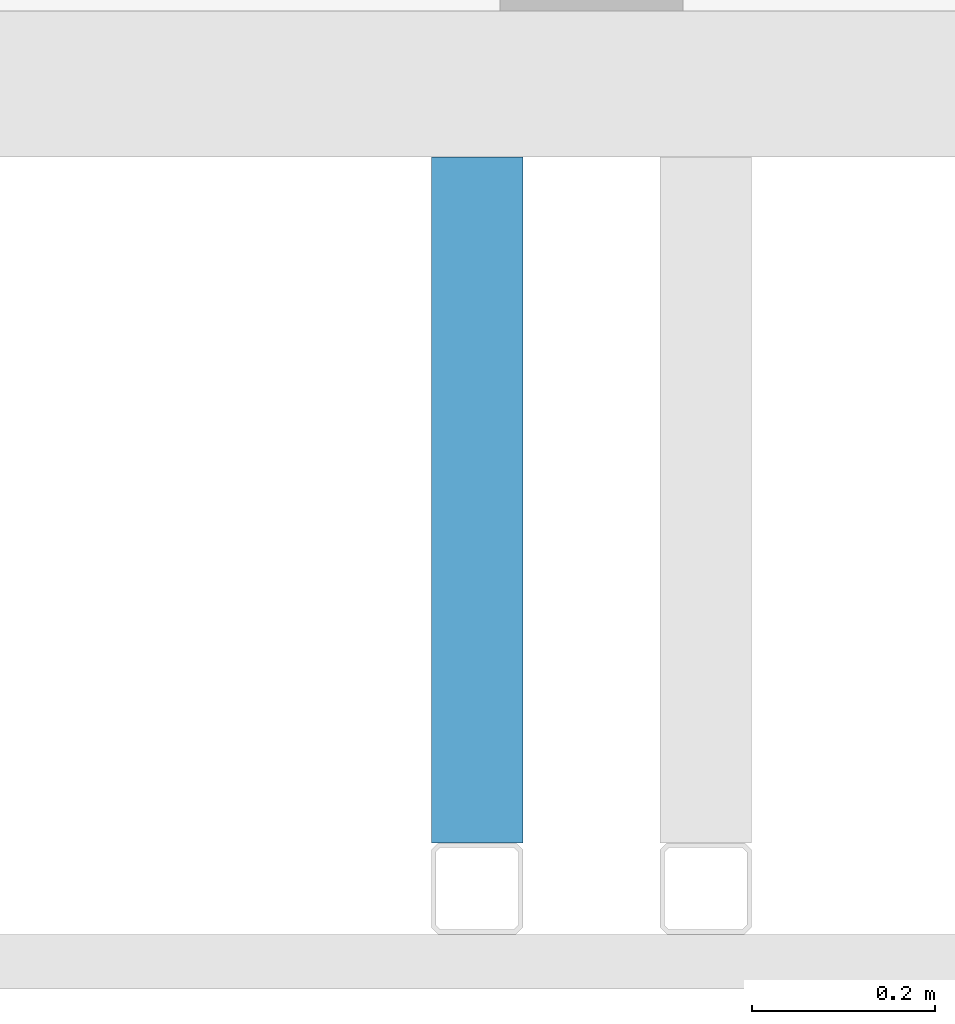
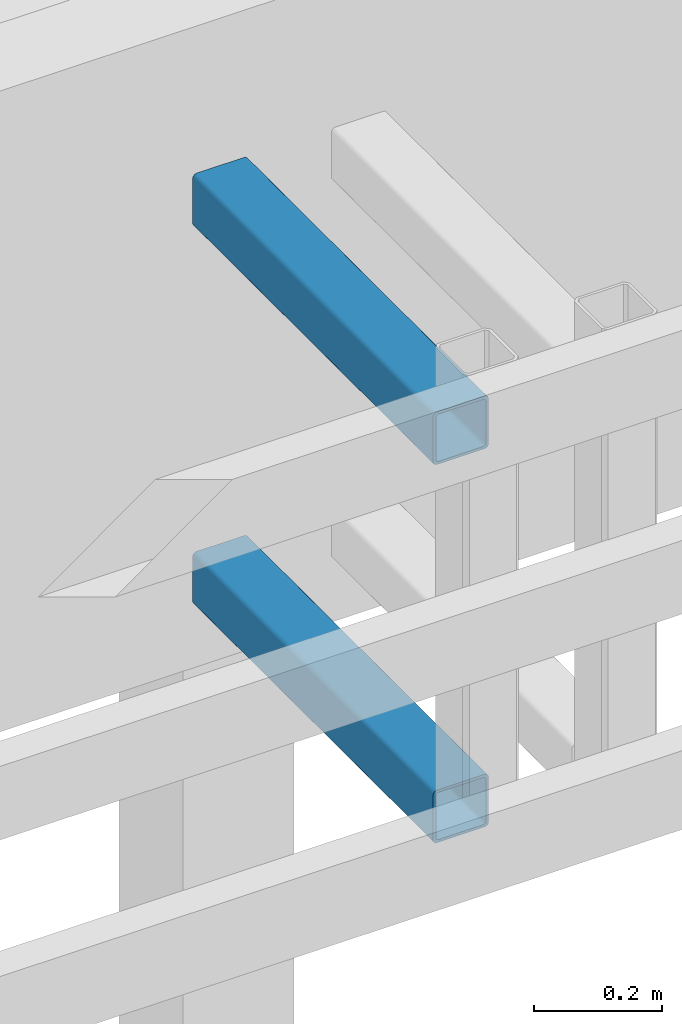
# One storey, part 7 of 44: 2 members.
"""IFC4 building model written with IfcOpenShell, lengths in metres."""

from ifc_helpers import new_model, entity, si_unit, converted_unit, derived_unit, frame, origin, place, context, subcontext, project, spatial, faceted_brep, material, element, save


model = new_model("IFC4")

# Units and contexts
model_context = context("Model", 3, precision=1e-05, world=origin())
plan_context = context("Plan", 2, precision=1e-05, world=origin())
body_context = subcontext(model_context, "Body", "Model", "MODEL_VIEW")
ifc_project = project(units=[si_unit("LENGTHUNIT", "METRE"), si_unit("AREAUNIT", "SQUARE_METRE"), si_unit("VOLUMEUNIT", "CUBIC_METRE"), si_unit("MASSUNIT", "GRAM", prefix="KILO"), converted_unit("PLANEANGLEUNIT", "DEGREE", entity("IfcPlaneAngleMeasure", 0.0174532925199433), si_unit("PLANEANGLEUNIT", "RADIAN"), dimensions=[0, 0, 0, 0, 0, 0, 0]), derived_unit("THERMALTRANSMITTANCEUNIT", [(si_unit("POWERUNIT", "WATT"), 1), (si_unit("THERMODYNAMICTEMPERATUREUNIT", "KELVIN"), -1), (si_unit("LENGTHUNIT", "METRE"), -2)]), derived_unit("VOLUMETRICFLOWRATEUNIT", [(si_unit("LENGTHUNIT", "METRE"), 3), (converted_unit("TIMEUNIT", "hour", entity("IfcTimeMeasure", 3600.0), si_unit("TIMEUNIT", "SECOND"), dimensions=[0, 0, 1, 0, 0, 0, 0]), -1), (si_unit("LENGTHUNIT", "METRE"), -1)])], contexts=[model_context, plan_context])

# Site, building, storey
site_placement = place(None, origin())
site = spatial("IfcSite", under=ifc_project, at=site_placement, Name="Site", CompositionType="ELEMENT")
building_placement = place(site_placement, origin())
building = spatial("IfcBuilding", under=site, at=building_placement, Name="Admin", CompositionType="ELEMENT")
storey_placement = place(building_placement, frame((0.0, 0.0, 3.25)))
storey = spatial("IfcBuildingStorey", under=building, at=storey_placement, Name="01-Etage1", CompositionType="ELEMENT", Elevation=3.25)

# Members
ifc_material_1 = material(Name="S235")
member_1_placement = place(storey_placement, frame((29.4948010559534, 11.1194493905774, 2.82)))
element("IfcMember", 1, at=member_1_placement, inside=storey, material=ifc_material_1, Name="Bandeau R+1", context=body_context, shape_type="Brep", body=[
    faceted_brep([(0.095, 0.0, 0.09), (0.095, 0.0, 0.01), (0.0950000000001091, 0.749999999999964, 0.01), (0.0950000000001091, 0.749999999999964, 0.09), (0.0949240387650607, 0.0, 0.0908682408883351), (0.0949240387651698, 0.749999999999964, 0.0908682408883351), (0.0946984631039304, 0.0, 0.0917101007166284), (0.0946984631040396, 0.749999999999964, 0.0917101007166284), (0.0943301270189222, 0.0, 0.0925), (0.0943301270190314, 0.749999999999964, 0.0925), (0.0938302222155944, 0.0, 0.0932139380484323), (0.0938302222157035, 0.749999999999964, 0.0932139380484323), (0.0932139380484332, 1.81898940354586e-15, 0.0938302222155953), (0.0932139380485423, 0.749999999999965, 0.0938302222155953), (0.0925, 1.81898940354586e-15, 0.0943301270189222), (0.0925000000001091, 0.749999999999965, 0.0943301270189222), (0.0917101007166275, 1.81898940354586e-15, 0.0946984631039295), (0.0917101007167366, 0.749999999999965, 0.0946984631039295), (0.090868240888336, 1.81898940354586e-15, 0.0949240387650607), (0.0908682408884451, 0.749999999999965, 0.0949240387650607), (0.09, 1.81898940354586e-15, 0.095), (0.0900000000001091, 0.749999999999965, 0.095), (0.01, 1.2732925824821e-14, 0.095), (0.0100000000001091, 0.749999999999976, 0.095), (0.009131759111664, 1.2732925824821e-14, 0.0949240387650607), (0.00913175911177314, 0.749999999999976, 0.0949240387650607), (0.00828989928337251, 1.2732925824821e-14, 0.0946984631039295), (0.00828989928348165, 0.749999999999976, 0.0946984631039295), (0.0075, 1.2732925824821e-14, 0.0943301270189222), (0.00750000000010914, 0.749999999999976, 0.0943301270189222), (0.00678606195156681, 1.2732925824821e-14, 0.0938302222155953), (0.00678606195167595, 0.749999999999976, 0.0938302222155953), (0.0061697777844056, 1.45519152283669e-14, 0.0932139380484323), (0.00616977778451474, 0.749999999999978, 0.0932139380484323), (0.00566987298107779, 1.45519152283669e-14, 0.0925), (0.00566987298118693, 0.749999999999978, 0.0925), (0.00530153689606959, 1.45519152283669e-14, 0.0917101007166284), (0.00530153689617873, 0.749999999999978, 0.0917101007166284), (0.00507596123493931, 1.45519152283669e-14, 0.0908682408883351), (0.00507596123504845, 0.749999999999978, 0.0908682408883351), (0.005, 1.45519152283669e-14, 0.09), (0.00500000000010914, 0.749999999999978, 0.09), (0.005, 1.45519152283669e-14, 0.01), (0.00500000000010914, 0.749999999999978, 0.01), (0.00507596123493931, 1.45519152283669e-14, 0.00913175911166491), (0.00507596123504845, 0.749999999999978, 0.00913175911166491), (0.00530153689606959, 1.45519152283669e-14, 0.0082898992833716), (0.00530153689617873, 0.749999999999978, 0.0082898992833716), (0.00566987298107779, 1.45519152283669e-14, 0.0075), (0.00566987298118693, 0.749999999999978, 0.0075), (0.0061697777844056, 1.45519152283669e-14, 0.00678606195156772), (0.00616977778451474, 0.749999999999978, 0.00678606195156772), (0.00678606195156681, 1.2732925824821e-14, 0.00616977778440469), (0.00678606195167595, 0.749999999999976, 0.00616977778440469), (0.0075, 1.2732925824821e-14, 0.00566987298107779), (0.00750000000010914, 0.749999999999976, 0.00566987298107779), (0.00828989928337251, 1.2732925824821e-14, 0.0053015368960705), (0.00828989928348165, 0.749999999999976, 0.0053015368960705), (0.009131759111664, 1.2732925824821e-14, 0.00507596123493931), (0.00913175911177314, 0.749999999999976, 0.00507596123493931), (0.01, 1.2732925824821e-14, 0.005), (0.0100000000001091, 0.749999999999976, 0.005), (0.09, 1.81898940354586e-15, 0.005), (0.0900000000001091, 0.749999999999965, 0.005), (0.090868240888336, 1.81898940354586e-15, 0.00507596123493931), (0.0908682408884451, 0.749999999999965, 0.00507596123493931), (0.0917101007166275, 1.81898940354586e-15, 0.0053015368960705), (0.0917101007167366, 0.749999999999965, 0.0053015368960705), (0.0925, 1.81898940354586e-15, 0.00566987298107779), (0.0925000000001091, 0.749999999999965, 0.00566987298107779), (0.0932139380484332, 1.81898940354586e-15, 0.00616977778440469), (0.0932139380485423, 0.749999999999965, 0.00616977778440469), (0.0938302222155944, 0.0, 0.00678606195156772), (0.0938302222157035, 0.749999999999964, 0.00678606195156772), (0.0943301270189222, 0.0, 0.0075), (0.0943301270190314, 0.749999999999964, 0.0075), (0.0946984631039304, 0.0, 0.0082898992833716), (0.0946984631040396, 0.749999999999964, 0.0082898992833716), (0.0949240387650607, 0.0, 0.00913175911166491), (0.0949240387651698, 0.749999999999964, 0.00913175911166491), (0.0075, 1.2732925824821e-14, 0.1), (0.00619763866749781, 1.45519152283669e-14, 0.0998860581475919), (0.00619763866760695, 0.749999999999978, 0.0998860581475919), (0.00750000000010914, 0.749999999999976, 0.1), (0.0925, 1.81898940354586e-15, 0.1), (0.0925000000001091, 0.749999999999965, 0.1), (0.0938023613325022, 0.0, 0.0998860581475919), (0.0938023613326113, 0.749999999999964, 0.0998860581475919), (0.0950651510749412, 0.0, 0.0995476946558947), (0.0950651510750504, 0.749999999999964, 0.0995476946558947), (0.09625, 0.0, 0.0989951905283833), (0.0962500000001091, 0.749999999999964, 0.0989951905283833), (0.097320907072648, 0.0, 0.0982453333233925), (0.0973209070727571, 0.749999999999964, 0.0982453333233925), (0.0982453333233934, 0.0, 0.0973209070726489), (0.0982453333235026, 0.749999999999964, 0.0973209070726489), (0.0989951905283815, 0.0, 0.09625), (0.0989951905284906, 0.749999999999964, 0.09625), (0.0995476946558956, 0.0, 0.0950651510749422), (0.0995476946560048, 0.749999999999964, 0.0950651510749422), (0.0998860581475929, 0.0, 0.0938023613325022), (0.099886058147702, 0.749999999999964, 0.0938023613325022), (0.1, 0.0, 0.0925), (0.100000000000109, 0.749999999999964, 0.0925), (0.0998860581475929, 0.0, 0.00619763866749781), (0.1, 0.0, 0.0075), (0.100000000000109, 0.749999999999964, 0.0075), (0.099886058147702, 0.749999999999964, 0.00619763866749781), (0.0995476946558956, 0.0, 0.00493484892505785), (0.0995476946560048, 0.749999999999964, 0.00493484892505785), (0.0989951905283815, 0.0, 0.00375), (0.0989951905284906, 0.749999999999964, 0.00375), (0.0982453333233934, 0.0, 0.00267909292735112), (0.0982453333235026, 0.749999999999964, 0.00267909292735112), (0.097320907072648, 0.0, 0.00175466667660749), (0.0973209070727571, 0.749999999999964, 0.00175466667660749), (0.09625, 0.0, 0.00100480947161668), (0.0962500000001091, 0.749999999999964, 0.00100480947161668), (0.0950651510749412, 0.0, 0.000452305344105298), (0.0950651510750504, 0.749999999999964, 0.000452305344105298), (0.0938023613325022, 0.0, 0.000113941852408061), (0.0938023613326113, 0.749999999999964, 0.000113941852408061), (0.0925, 1.81898940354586e-15, 0.0), (0.0925000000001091, 0.749999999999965, 0.0), (0.0075, 1.2732925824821e-14, 0.0), (0.00750000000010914, 0.749999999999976, 0.0), (0.00619763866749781, 1.45519152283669e-14, 0.000113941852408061), (0.00619763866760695, 0.749999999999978, 0.000113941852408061), (0.00493484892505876, 1.45519152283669e-14, 0.000452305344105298), (0.0049348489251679, 0.749999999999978, 0.000452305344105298), (0.00375, 1.45519152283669e-14, 0.00100480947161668), (0.00375000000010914, 0.749999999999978, 0.00100480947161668), (0.00267909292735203, 1.45519152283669e-14, 0.00175466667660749), (0.00267909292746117, 0.749999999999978, 0.00175466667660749), (0.00175466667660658, 1.45519152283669e-14, 0.00267909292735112), (0.00175466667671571, 0.749999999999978, 0.00267909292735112), (0.0010048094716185, 1.45519152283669e-14, 0.00375), (0.00100480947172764, 0.749999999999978, 0.00375), (0.000452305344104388, 1.45519152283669e-14, 0.00493484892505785), (0.000452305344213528, 0.749999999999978, 0.00493484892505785), (0.000113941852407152, 1.45519152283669e-14, 0.00619763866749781), (0.000113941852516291, 0.749999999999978, 0.00619763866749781), (0.0, 0.0, 0.0075), (1.09139364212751e-13, 0.749999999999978, 0.0075), (0.000113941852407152, 1.45519152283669e-14, 0.0938023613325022), (0.0, 0.0, 0.0925), (1.09139364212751e-13, 0.749999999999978, 0.0925), (0.000113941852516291, 0.749999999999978, 0.0938023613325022), (0.000452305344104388, 1.45519152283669e-14, 0.0950651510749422), (0.000452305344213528, 0.749999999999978, 0.0950651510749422), (0.0010048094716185, 1.45519152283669e-14, 0.09625), (0.00100480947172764, 0.749999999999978, 0.09625), (0.00175466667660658, 1.45519152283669e-14, 0.0973209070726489), (0.00175466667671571, 0.749999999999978, 0.0973209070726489), (0.00267909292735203, 1.45519152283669e-14, 0.0982453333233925), (0.00267909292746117, 0.749999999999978, 0.0982453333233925), (0.00375, 1.45519152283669e-14, 0.0989951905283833), (0.00375000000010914, 0.749999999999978, 0.0989951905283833), (0.00493484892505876, 1.45519152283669e-14, 0.0995476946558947), (0.0049348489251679, 0.749999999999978, 0.0995476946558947)], [[[0, 1, 2, 3]], [[4, 0, 3, 5]], [[6, 4, 5, 7]], [[8, 6, 7, 9]], [[10, 8, 9, 11]], [[12, 10, 11, 13]], [[14, 12, 13, 15]], [[16, 14, 15, 17]], [[18, 16, 17, 19]], [[20, 18, 19, 21]], [[22, 20, 21, 23]], [[24, 22, 23, 25]], [[26, 24, 25, 27]], [[28, 26, 27, 29]], [[30, 28, 29, 31]], [[32, 30, 31, 33]], [[34, 32, 33, 35]], [[36, 34, 35, 37]], [[38, 36, 37, 39]], [[40, 38, 39, 41]], [[42, 40, 41, 43]], [[44, 42, 43, 45]], [[46, 44, 45, 47]], [[48, 46, 47, 49]], [[50, 48, 49, 51]], [[52, 50, 51, 53]], [[54, 52, 53, 55]], [[56, 54, 55, 57]], [[58, 56, 57, 59]], [[60, 58, 59, 61]], [[62, 60, 61, 63]], [[64, 62, 63, 65]], [[66, 64, 65, 67]], [[68, 66, 67, 69]], [[70, 68, 69, 71]], [[72, 70, 71, 73]], [[74, 72, 73, 75]], [[76, 74, 75, 77]], [[78, 76, 77, 79]], [[1, 78, 79, 2]], [[80, 81, 82, 83]], [[84, 80, 83, 85]], [[86, 84, 85, 87]], [[88, 86, 87, 89]], [[90, 88, 89, 91]], [[92, 90, 91, 93]], [[94, 92, 93, 95]], [[96, 94, 95, 97]], [[98, 96, 97, 99]], [[100, 98, 99, 101]], [[102, 100, 101, 103]], [[104, 105, 106, 107]], [[108, 104, 107, 109]], [[110, 108, 109, 111]], [[112, 110, 111, 113]], [[114, 112, 113, 115]], [[116, 114, 115, 117]], [[118, 116, 117, 119]], [[120, 118, 119, 121]], [[122, 120, 121, 123]], [[124, 122, 123, 125]], [[126, 124, 125, 127]], [[128, 126, 127, 129]], [[130, 128, 129, 131]], [[132, 130, 131, 133]], [[134, 132, 133, 135]], [[136, 134, 135, 137]], [[138, 136, 137, 139]], [[140, 138, 139, 141]], [[142, 140, 141, 143]], [[144, 145, 146, 147]], [[148, 144, 147, 149]], [[150, 148, 149, 151]], [[152, 150, 151, 153]], [[154, 152, 153, 155]], [[156, 154, 155, 157]], [[158, 156, 157, 159]], [[81, 158, 159, 82]], [[146, 143, 141, 139, 137, 135, 133, 131, 129, 127, 125, 123, 121, 119, 117, 115, 113, 111, 109, 107, 106, 103, 101, 99, 97, 95, 93, 91, 89, 87, 85, 83, 82, 159, 157, 155, 153, 151, 149, 147], [2, 79, 77, 75, 73, 71, 69, 67, 65, 63, 61, 59, 57, 55, 53, 51, 49, 47, 45, 43, 41, 39, 37, 35, 33, 31, 29, 27, 25, 23, 21, 19, 17, 15, 13, 11, 9, 7, 5, 3]], [[103, 106, 105, 102]], [[102, 105, 104, 108, 110, 112, 114, 116, 118, 120, 122, 124, 126, 128, 130, 132, 134, 136, 138, 140, 142, 145, 144, 148, 150, 152, 154, 156, 158, 81, 80, 84, 86, 88, 90, 92, 94, 96, 98, 100], [1, 0, 4, 6, 8, 10, 12, 14, 16, 18, 20, 22, 24, 26, 28, 30, 32, 34, 36, 38, 40, 42, 44, 46, 48, 50, 52, 54, 56, 58, 60, 62, 64, 66, 68, 70, 72, 74, 76, 78]], [[145, 142, 143, 146]]], orient=[[False], [False], [False], [False], [False], [False], [False], [False], [False], [False], [False], [False], [False], [False], [False], [False], [False], [False], [False], [False], [False], [False], [False], [False], [False], [False], [False], [False], [False], [False], [False], [False], [False], [False], [False], [False], [False], [False], [False], [False], [False], [False], [False], [False], [False], [False], [False], [False], [False], [False], [False], [False], [False], [False], [False], [False], [False], [False], [False], [False], [False], [False], [False], [False], [False], [False], [False], [False], [False], [False], [False], [False], [False], [False], [False], [False], [False], [False], [False, False], [False], [False, False], [False]]),
])
ifc_material_2 = material(Name="S235")
member_2_placement = place(storey_placement, frame((29.4948010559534, 11.1194493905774, 3.54)))
element("IfcMember", 2, at=member_2_placement, inside=storey, material=ifc_material_2, Name="Bandeau R+1", context=body_context, shape_type="Brep", body=[
    faceted_brep([(0.095, 0.0, 0.09), (0.095, 0.0, 0.01), (0.0950000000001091, 0.749999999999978, 0.01), (0.0950000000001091, 0.749999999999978, 0.09), (0.0949240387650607, 0.0, 0.0908682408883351), (0.0949240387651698, 0.749999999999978, 0.0908682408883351), (0.0946984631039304, 0.0, 0.0917101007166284), (0.0946984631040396, 0.749999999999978, 0.0917101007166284), (0.0943301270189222, 0.0, 0.0925), (0.0943301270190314, 0.749999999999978, 0.0925), (0.0938302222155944, 0.0, 0.0932139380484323), (0.0938302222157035, 0.749999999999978, 0.0932139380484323), (0.0932139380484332, 1.81898940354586e-15, 0.0938302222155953), (0.0932139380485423, 0.74999999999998, 0.0938302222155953), (0.0925, 1.81898940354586e-15, 0.0943301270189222), (0.0925000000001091, 0.74999999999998, 0.0943301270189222), (0.0917101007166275, 1.81898940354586e-15, 0.0946984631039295), (0.0917101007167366, 0.74999999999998, 0.0946984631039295), (0.090868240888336, 1.81898940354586e-15, 0.0949240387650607), (0.0908682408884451, 0.74999999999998, 0.0949240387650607), (0.09, 1.81898940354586e-15, 0.095), (0.0900000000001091, 0.74999999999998, 0.095), (0.01, 1.2732925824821e-14, 0.095), (0.0100000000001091, 0.749999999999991, 0.095), (0.009131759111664, 1.2732925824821e-14, 0.0949240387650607), (0.00913175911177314, 0.749999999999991, 0.0949240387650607), (0.00828989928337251, 1.2732925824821e-14, 0.0946984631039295), (0.00828989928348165, 0.749999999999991, 0.0946984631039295), (0.0075, 1.2732925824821e-14, 0.0943301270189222), (0.00750000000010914, 0.749999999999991, 0.0943301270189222), (0.00678606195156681, 1.2732925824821e-14, 0.0938302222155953), (0.00678606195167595, 0.749999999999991, 0.0938302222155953), (0.0061697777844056, 1.45519152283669e-14, 0.0932139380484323), (0.00616977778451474, 0.749999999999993, 0.0932139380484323), (0.00566987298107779, 1.45519152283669e-14, 0.0925), (0.00566987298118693, 0.749999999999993, 0.0925), (0.00530153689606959, 1.45519152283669e-14, 0.0917101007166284), (0.00530153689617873, 0.749999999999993, 0.0917101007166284), (0.00507596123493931, 1.45519152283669e-14, 0.0908682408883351), (0.00507596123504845, 0.749999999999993, 0.0908682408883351), (0.005, 1.45519152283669e-14, 0.09), (0.00500000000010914, 0.749999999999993, 0.09), (0.005, 1.45519152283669e-14, 0.01), (0.00500000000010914, 0.749999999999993, 0.01), (0.00507596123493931, 1.45519152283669e-14, 0.00913175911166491), (0.00507596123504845, 0.749999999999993, 0.00913175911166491), (0.00530153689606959, 1.45519152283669e-14, 0.0082898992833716), (0.00530153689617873, 0.749999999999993, 0.0082898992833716), (0.00566987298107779, 1.45519152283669e-14, 0.0075), (0.00566987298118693, 0.749999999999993, 0.0075), (0.0061697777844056, 1.45519152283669e-14, 0.00678606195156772), (0.00616977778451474, 0.749999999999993, 0.00678606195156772), (0.00678606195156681, 1.2732925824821e-14, 0.00616977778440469), (0.00678606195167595, 0.749999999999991, 0.00616977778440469), (0.0075, 1.2732925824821e-14, 0.00566987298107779), (0.00750000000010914, 0.749999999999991, 0.00566987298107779), (0.00828989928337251, 1.2732925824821e-14, 0.0053015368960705), (0.00828989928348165, 0.749999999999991, 0.0053015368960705), (0.009131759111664, 1.2732925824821e-14, 0.00507596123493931), (0.00913175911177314, 0.749999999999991, 0.00507596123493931), (0.01, 1.2732925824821e-14, 0.005), (0.0100000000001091, 0.749999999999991, 0.005), (0.09, 1.81898940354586e-15, 0.005), (0.0900000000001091, 0.74999999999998, 0.005), (0.090868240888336, 1.81898940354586e-15, 0.00507596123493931), (0.0908682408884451, 0.74999999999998, 0.00507596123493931), (0.0917101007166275, 1.81898940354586e-15, 0.0053015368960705), (0.0917101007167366, 0.74999999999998, 0.0053015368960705), (0.0925, 1.81898940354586e-15, 0.00566987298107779), (0.0925000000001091, 0.74999999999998, 0.00566987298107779), (0.0932139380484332, 1.81898940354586e-15, 0.00616977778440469), (0.0932139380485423, 0.74999999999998, 0.00616977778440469), (0.0938302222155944, 0.0, 0.00678606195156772), (0.0938302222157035, 0.749999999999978, 0.00678606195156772), (0.0943301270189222, 0.0, 0.0075), (0.0943301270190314, 0.749999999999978, 0.0075), (0.0946984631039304, 0.0, 0.0082898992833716), (0.0946984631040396, 0.749999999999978, 0.0082898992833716), (0.0949240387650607, 0.0, 0.00913175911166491), (0.0949240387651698, 0.749999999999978, 0.00913175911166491), (0.0075, 1.2732925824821e-14, 0.1), (0.00619763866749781, 1.45519152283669e-14, 0.0998860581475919), (0.00619763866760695, 0.749999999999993, 0.0998860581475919), (0.00750000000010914, 0.749999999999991, 0.1), (0.0925, 1.81898940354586e-15, 0.1), (0.0925000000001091, 0.74999999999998, 0.1), (0.0938023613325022, 0.0, 0.0998860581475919), (0.0938023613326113, 0.749999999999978, 0.0998860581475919), (0.0950651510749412, 0.0, 0.0995476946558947), (0.0950651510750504, 0.749999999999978, 0.0995476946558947), (0.09625, 0.0, 0.0989951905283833), (0.0962500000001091, 0.749999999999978, 0.0989951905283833), (0.097320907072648, 0.0, 0.0982453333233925), (0.0973209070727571, 0.749999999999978, 0.0982453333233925), (0.0982453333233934, 0.0, 0.0973209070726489), (0.0982453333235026, 0.749999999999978, 0.0973209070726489), (0.0989951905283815, 0.0, 0.09625), (0.0989951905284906, 0.749999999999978, 0.09625), (0.0995476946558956, 0.0, 0.0950651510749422), (0.0995476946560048, 0.749999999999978, 0.0950651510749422), (0.0998860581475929, 0.0, 0.0938023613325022), (0.099886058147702, 0.749999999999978, 0.0938023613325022), (0.1, 0.0, 0.0925), (0.100000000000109, 0.749999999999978, 0.0925), (0.0998860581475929, 0.0, 0.00619763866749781), (0.1, 0.0, 0.0075), (0.100000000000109, 0.749999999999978, 0.0075), (0.099886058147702, 0.749999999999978, 0.00619763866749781), (0.0995476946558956, 0.0, 0.00493484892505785), (0.0995476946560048, 0.749999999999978, 0.00493484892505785), (0.0989951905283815, 0.0, 0.00375), (0.0989951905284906, 0.749999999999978, 0.00375), (0.0982453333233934, 0.0, 0.00267909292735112), (0.0982453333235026, 0.749999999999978, 0.00267909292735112), (0.097320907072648, 0.0, 0.00175466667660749), (0.0973209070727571, 0.749999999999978, 0.00175466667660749), (0.09625, 0.0, 0.00100480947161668), (0.0962500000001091, 0.749999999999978, 0.00100480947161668), (0.0950651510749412, 0.0, 0.000452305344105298), (0.0950651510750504, 0.749999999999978, 0.000452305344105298), (0.0938023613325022, 0.0, 0.000113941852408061), (0.0938023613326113, 0.749999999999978, 0.000113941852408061), (0.0925, 1.81898940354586e-15, 0.0), (0.0925000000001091, 0.74999999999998, 0.0), (0.0075, 1.2732925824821e-14, 0.0), (0.00750000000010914, 0.749999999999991, 0.0), (0.00619763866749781, 1.45519152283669e-14, 0.000113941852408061), (0.00619763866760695, 0.749999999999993, 0.000113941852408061), (0.00493484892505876, 1.45519152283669e-14, 0.000452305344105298), (0.0049348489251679, 0.749999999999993, 0.000452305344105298), (0.00375, 1.45519152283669e-14, 0.00100480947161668), (0.00375000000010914, 0.749999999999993, 0.00100480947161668), (0.00267909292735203, 1.45519152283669e-14, 0.00175466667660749), (0.00267909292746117, 0.749999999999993, 0.00175466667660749), (0.00175466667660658, 1.45519152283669e-14, 0.00267909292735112), (0.00175466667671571, 0.749999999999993, 0.00267909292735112), (0.0010048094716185, 1.45519152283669e-14, 0.00375), (0.00100480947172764, 0.749999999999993, 0.00375), (0.000452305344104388, 1.45519152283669e-14, 0.00493484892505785), (0.000452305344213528, 0.749999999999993, 0.00493484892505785), (0.000113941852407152, 1.45519152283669e-14, 0.00619763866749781), (0.000113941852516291, 0.749999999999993, 0.00619763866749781), (0.0, 0.0, 0.0075), (1.09139364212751e-13, 0.749999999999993, 0.0075), (0.000113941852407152, 1.45519152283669e-14, 0.0938023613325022), (0.0, -1.81898940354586e-15, 0.0925), (1.09139364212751e-13, 0.749999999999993, 0.0925), (0.000113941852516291, 0.749999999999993, 0.0938023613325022), (0.000452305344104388, 1.45519152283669e-14, 0.0950651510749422), (0.000452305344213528, 0.749999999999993, 0.0950651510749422), (0.0010048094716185, 1.45519152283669e-14, 0.09625), (0.00100480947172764, 0.749999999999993, 0.09625), (0.00175466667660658, 1.45519152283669e-14, 0.0973209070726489), (0.00175466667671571, 0.749999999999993, 0.0973209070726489), (0.00267909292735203, 1.45519152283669e-14, 0.0982453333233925), (0.00267909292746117, 0.749999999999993, 0.0982453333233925), (0.00375, 1.45519152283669e-14, 0.0989951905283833), (0.00375000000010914, 0.749999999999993, 0.0989951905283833), (0.00493484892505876, 1.45519152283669e-14, 0.0995476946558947), (0.0049348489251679, 0.749999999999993, 0.0995476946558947)], [[[0, 1, 2, 3]], [[4, 0, 3, 5]], [[6, 4, 5, 7]], [[8, 6, 7, 9]], [[10, 8, 9, 11]], [[12, 10, 11, 13]], [[14, 12, 13, 15]], [[16, 14, 15, 17]], [[18, 16, 17, 19]], [[20, 18, 19, 21]], [[22, 20, 21, 23]], [[24, 22, 23, 25]], [[26, 24, 25, 27]], [[28, 26, 27, 29]], [[30, 28, 29, 31]], [[32, 30, 31, 33]], [[34, 32, 33, 35]], [[36, 34, 35, 37]], [[38, 36, 37, 39]], [[40, 38, 39, 41]], [[42, 40, 41, 43]], [[44, 42, 43, 45]], [[46, 44, 45, 47]], [[48, 46, 47, 49]], [[50, 48, 49, 51]], [[52, 50, 51, 53]], [[54, 52, 53, 55]], [[56, 54, 55, 57]], [[58, 56, 57, 59]], [[60, 58, 59, 61]], [[62, 60, 61, 63]], [[64, 62, 63, 65]], [[66, 64, 65, 67]], [[68, 66, 67, 69]], [[70, 68, 69, 71]], [[72, 70, 71, 73]], [[74, 72, 73, 75]], [[76, 74, 75, 77]], [[78, 76, 77, 79]], [[1, 78, 79, 2]], [[80, 81, 82, 83]], [[84, 80, 83, 85]], [[86, 84, 85, 87]], [[88, 86, 87, 89]], [[90, 88, 89, 91]], [[92, 90, 91, 93]], [[94, 92, 93, 95]], [[96, 94, 95, 97]], [[98, 96, 97, 99]], [[100, 98, 99, 101]], [[102, 100, 101, 103]], [[104, 105, 106, 107]], [[108, 104, 107, 109]], [[110, 108, 109, 111]], [[112, 110, 111, 113]], [[114, 112, 113, 115]], [[116, 114, 115, 117]], [[118, 116, 117, 119]], [[120, 118, 119, 121]], [[122, 120, 121, 123]], [[124, 122, 123, 125]], [[126, 124, 125, 127]], [[128, 126, 127, 129]], [[130, 128, 129, 131]], [[132, 130, 131, 133]], [[134, 132, 133, 135]], [[136, 134, 135, 137]], [[138, 136, 137, 139]], [[140, 138, 139, 141]], [[142, 140, 141, 143]], [[144, 145, 146, 147]], [[148, 144, 147, 149]], [[150, 148, 149, 151]], [[152, 150, 151, 153]], [[154, 152, 153, 155]], [[156, 154, 155, 157]], [[158, 156, 157, 159]], [[81, 158, 159, 82]], [[146, 143, 141, 139, 137, 135, 133, 131, 129, 127, 125, 123, 121, 119, 117, 115, 113, 111, 109, 107, 106, 103, 101, 99, 97, 95, 93, 91, 89, 87, 85, 83, 82, 159, 157, 155, 153, 151, 149, 147], [2, 79, 77, 75, 73, 71, 69, 67, 65, 63, 61, 59, 57, 55, 53, 51, 49, 47, 45, 43, 41, 39, 37, 35, 33, 31, 29, 27, 25, 23, 21, 19, 17, 15, 13, 11, 9, 7, 5, 3]], [[103, 106, 105, 102]], [[102, 105, 104, 108, 110, 112, 114, 116, 118, 120, 122, 124, 126, 128, 130, 132, 134, 136, 138, 140, 142, 145, 144, 148, 150, 152, 154, 156, 158, 81, 80, 84, 86, 88, 90, 92, 94, 96, 98, 100], [1, 0, 4, 6, 8, 10, 12, 14, 16, 18, 20, 22, 24, 26, 28, 30, 32, 34, 36, 38, 40, 42, 44, 46, 48, 50, 52, 54, 56, 58, 60, 62, 64, 66, 68, 70, 72, 74, 76, 78]], [[145, 142, 143, 146]]], orient=[[False], [False], [False], [False], [False], [False], [False], [False], [False], [False], [False], [False], [False], [False], [False], [False], [False], [False], [False], [False], [False], [False], [False], [False], [False], [False], [False], [False], [False], [False], [False], [False], [False], [False], [False], [False], [False], [False], [False], [False], [False], [False], [False], [False], [False], [False], [False], [False], [False], [False], [False], [False], [False], [False], [False], [False], [False], [False], [False], [False], [False], [False], [False], [False], [False], [False], [False], [False], [False], [False], [False], [False], [False], [False], [False], [False], [False], [False], [False, False], [False], [False, False], [False]]),
])

save(model, "model.ifc")
